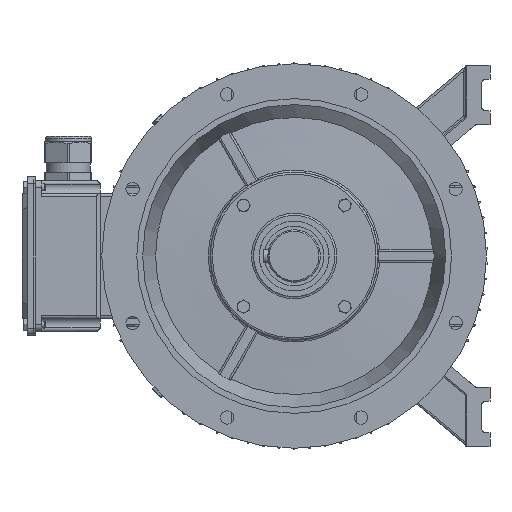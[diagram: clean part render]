
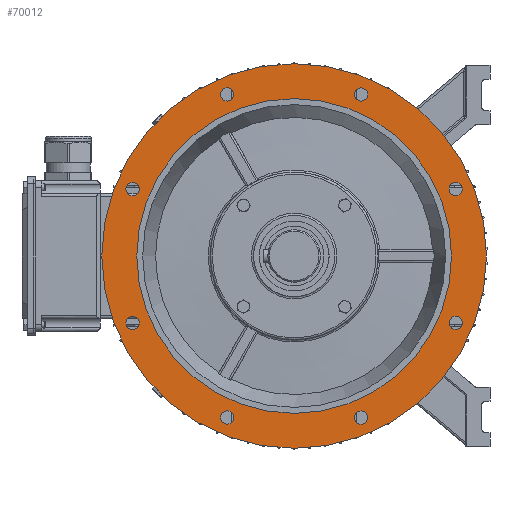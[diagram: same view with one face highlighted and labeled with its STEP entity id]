
A CAD part, left-side view. The second image highlights one B-rep face of the part: STEP entity #70012.
In plain terms, the highlighted planar face has unit normal (-1, 0, 0).
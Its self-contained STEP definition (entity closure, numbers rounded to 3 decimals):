
#69794=CARTESIAN_POINT('',(140.0,88.953,-237.687));
#69795=VERTEX_POINT('',#69794);
#69796=CARTESIAN_POINT('',(140.0,95.671,-230.97));
#69797=DIRECTION('',(1.0,0.,0.));
#69798=DIRECTION('',(0.,0.707,0.707));
#69799=AXIS2_PLACEMENT_3D('',#69796,#69797,#69798);
#69800=CIRCLE('',#69799,9.5);
#69801=EDGE_CURVE('',#69795,#69795,#69800,.T.);
#69814=CARTESIAN_POINT('',(140.0,-105.171,-230.97));
#69815=VERTEX_POINT('',#69814);
#69816=CARTESIAN_POINT('',(140.0,-95.671,-230.97));
#69817=DIRECTION('',(1.0,0.0,0.0));
#69818=DIRECTION('',(0.0,1.0,0.0));
#69819=AXIS2_PLACEMENT_3D('',#69816,#69817,#69818);
#69820=CIRCLE('',#69819,9.5);
#69821=EDGE_CURVE('',#69815,#69815,#69820,.T.);
#69834=CARTESIAN_POINT('',(140.0,-237.687,-88.953));
#69835=VERTEX_POINT('',#69834);
#69836=CARTESIAN_POINT('',(140.0,-230.97,-95.671));
#69837=DIRECTION('',(1.0,0.,0.));
#69838=DIRECTION('',(0.,0.707,-0.707));
#69839=AXIS2_PLACEMENT_3D('',#69836,#69837,#69838);
#69840=CIRCLE('',#69839,9.5);
#69841=EDGE_CURVE('',#69835,#69835,#69840,.T.);
#69854=CARTESIAN_POINT('',(140.0,-230.97,105.171));
#69855=VERTEX_POINT('',#69854);
#69856=CARTESIAN_POINT('',(140.0,-230.97,95.671));
#69857=DIRECTION('',(1.0,0.0,0.0));
#69858=DIRECTION('',(0.0,0.0,-1.0));
#69859=AXIS2_PLACEMENT_3D('',#69856,#69857,#69858);
#69860=CIRCLE('',#69859,9.5);
#69861=EDGE_CURVE('',#69855,#69855,#69860,.T.);
#69874=CARTESIAN_POINT('',(140.0,-88.953,237.687));
#69875=VERTEX_POINT('',#69874);
#69876=CARTESIAN_POINT('',(140.0,-95.671,230.97));
#69877=DIRECTION('',(1.0,0.,0.));
#69878=DIRECTION('',(0.,-0.707,-0.707));
#69879=AXIS2_PLACEMENT_3D('',#69876,#69877,#69878);
#69880=CIRCLE('',#69879,9.5);
#69881=EDGE_CURVE('',#69875,#69875,#69880,.T.);
#69894=CARTESIAN_POINT('',(140.0,105.171,230.97));
#69895=VERTEX_POINT('',#69894);
#69896=CARTESIAN_POINT('',(140.0,95.671,230.97));
#69897=DIRECTION('',(1.0,0.0,0.0));
#69898=DIRECTION('',(0.0,-1.0,0.0));
#69899=AXIS2_PLACEMENT_3D('',#69896,#69897,#69898);
#69900=CIRCLE('',#69899,9.5);
#69901=EDGE_CURVE('',#69895,#69895,#69900,.T.);
#69914=CARTESIAN_POINT('',(140.0,237.687,88.953));
#69915=VERTEX_POINT('',#69914);
#69916=CARTESIAN_POINT('',(140.0,230.97,95.671));
#69917=DIRECTION('',(1.0,0.,0.));
#69918=DIRECTION('',(0.,-0.707,0.707));
#69919=AXIS2_PLACEMENT_3D('',#69916,#69917,#69918);
#69920=CIRCLE('',#69919,9.5);
#69921=EDGE_CURVE('',#69915,#69915,#69920,.T.);
#69934=CARTESIAN_POINT('',(140.0,230.97,-105.171));
#69935=VERTEX_POINT('',#69934);
#69936=CARTESIAN_POINT('',(140.0,230.97,-95.671));
#69937=DIRECTION('',(1.0,0.0,0.0));
#69938=DIRECTION('',(0.0,0.0,1.0));
#69939=AXIS2_PLACEMENT_3D('',#69936,#69937,#69938);
#69940=CIRCLE('',#69939,9.5);
#69941=EDGE_CURVE('',#69935,#69935,#69940,.T.);
#69957=CARTESIAN_POINT('',(140.0,275.0,0.0));
#69958=VERTEX_POINT('',#69957);
#69959=CARTESIAN_POINT('',(140.0,0.,0.0));
#69960=DIRECTION('',(1.0,0.0,0.0));
#69961=DIRECTION('',(0.0,1.0,0.0));
#69962=AXIS2_PLACEMENT_3D('',#69959,#69960,#69961);
#69963=CIRCLE('',#69962,275.0);
#69964=EDGE_CURVE('',#69958,#69958,#69963,.T.);
#69969=CARTESIAN_POINT('',(140.0,250.0,0.0));
#69970=DIRECTION('',(-1.0,0.0,0.0));
#69971=DIRECTION('',(0.0,0.0,1.0));
#69972=AXIS2_PLACEMENT_3D('',#69969,#69970,#69971);
#69973=PLANE('',#69972);
#69974=ORIENTED_EDGE('',*,*,#69964,.F.);
#69975=EDGE_LOOP('',(#69974));
#69976=FACE_OUTER_BOUND('',#69975,.T.);
#69977=ORIENTED_EDGE('',*,*,#69801,.T.);
#69978=EDGE_LOOP('',(#69977));
#69979=FACE_BOUND('',#69978,.T.);
#69980=ORIENTED_EDGE('',*,*,#69821,.T.);
#69981=EDGE_LOOP('',(#69980));
#69982=FACE_BOUND('',#69981,.T.);
#69983=ORIENTED_EDGE('',*,*,#69841,.T.);
#69984=EDGE_LOOP('',(#69983));
#69985=FACE_BOUND('',#69984,.T.);
#69986=ORIENTED_EDGE('',*,*,#69861,.T.);
#69987=EDGE_LOOP('',(#69986));
#69988=FACE_BOUND('',#69987,.T.);
#69989=ORIENTED_EDGE('',*,*,#69881,.T.);
#69990=EDGE_LOOP('',(#69989));
#69991=FACE_BOUND('',#69990,.T.);
#69992=ORIENTED_EDGE('',*,*,#69901,.T.);
#69993=EDGE_LOOP('',(#69992));
#69994=FACE_BOUND('',#69993,.T.);
#69995=ORIENTED_EDGE('',*,*,#69921,.T.);
#69996=EDGE_LOOP('',(#69995));
#69997=FACE_BOUND('',#69996,.T.);
#69998=ORIENTED_EDGE('',*,*,#69941,.T.);
#69999=EDGE_LOOP('',(#69998));
#70000=FACE_BOUND('',#69999,.T.);
#70001=CARTESIAN_POINT('',(140.0,225.0,0.0));
#70002=VERTEX_POINT('',#70001);
#70003=CARTESIAN_POINT('',(140.0,0.,0.0));
#70004=DIRECTION('',(1.0,0.0,0.0));
#70005=DIRECTION('',(0.0,1.0,0.0));
#70006=AXIS2_PLACEMENT_3D('',#70003,#70004,#70005);
#70007=CIRCLE('',#70006,225.0);
#70008=EDGE_CURVE('',#70002,#70002,#70007,.T.);
#70009=ORIENTED_EDGE('',*,*,#70008,.T.);
#70010=EDGE_LOOP('',(#70009));
#70011=FACE_BOUND('',#70010,.T.);
#70012=ADVANCED_FACE('',(#69976,#69979,#69982,#69985,#69988,#69991,#69994,#69997,#70000,#70011),#69973,.T.);
